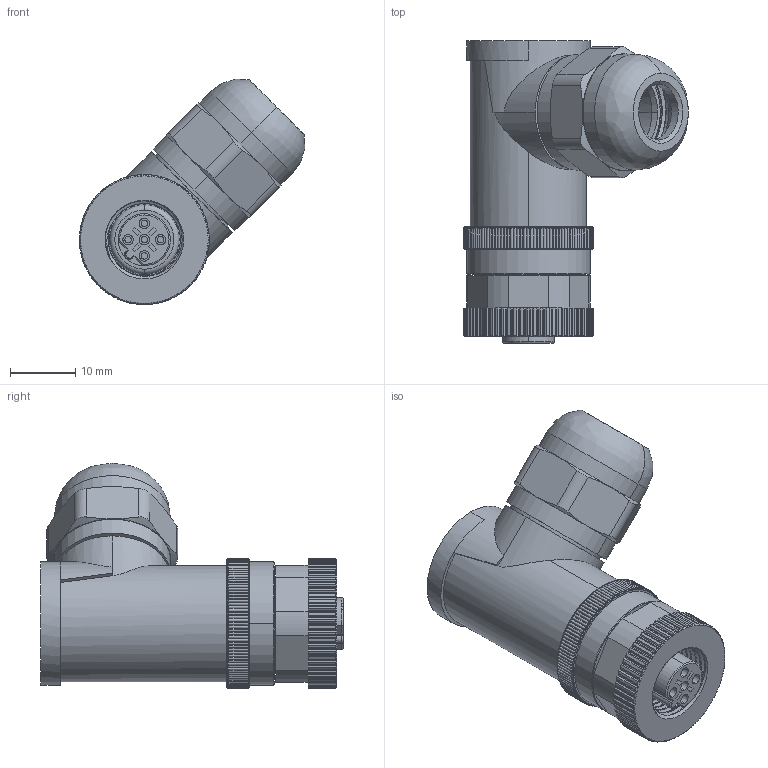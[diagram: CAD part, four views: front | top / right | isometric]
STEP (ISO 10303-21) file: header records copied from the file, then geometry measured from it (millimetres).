
FILE_DESCRIPTION((''),'2;1');
FILE_NAME('XC-M12P-RWK-PG9','2025-06-23T15:18:20',('lyj'),(''),'CREO PARAMETRIC BY PTC INC, 2019010','CREO PARAMETRIC BY PTC INC, 2019010','');
FILE_SCHEMA(('CONFIG_CONTROL_DESIGN'));
Length unit declared in the file: millimetre
Products named in the file (1): XC-M12P-RWK-PG9
Bounding box: 34.66 x 46.5 x 34.66 mm (x, y, z)
Volume: 10437.8 mm3; surface area: 13352 mm2
Topology: 1 solids, 11 shells, 1750 faces, 4625 edges, 2948 vertices
Faces by surface type: cylinder 834, plane 426, cone 373, bspline 60, extrusion 29, torus 28
Entity records: 85635 total; most frequent: CARTESIAN_POINT 44032, ORIENTED_EDGE 9250, DIRECTION 8030, EDGE_CURVE 4625, AXIS2_PLACEMENT_3D 3186, VERTEX_POINT 2948, EDGE_LOOP 1845, FACE_OUTER_BOUND 1750
